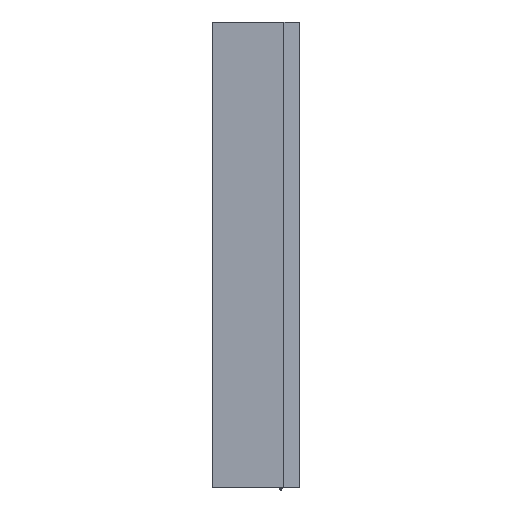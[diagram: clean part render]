
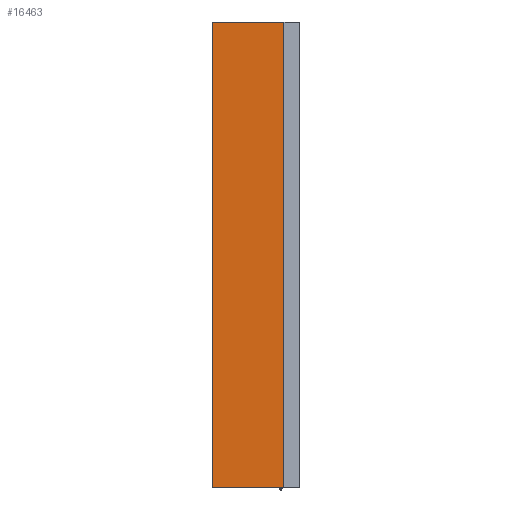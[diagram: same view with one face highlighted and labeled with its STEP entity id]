
A CAD part, left-side view. The second image highlights one B-rep face of the part: STEP entity #16463.
In plain terms, the highlighted planar face has unit normal (-1, 0.018, 0).
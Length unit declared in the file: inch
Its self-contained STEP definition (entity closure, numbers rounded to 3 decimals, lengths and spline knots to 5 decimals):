
#1100 = PLANE ( 'NONE',  #24890 ) ;
#1114 = VECTOR ( 'NONE', #16452, 39.37008 ) ;
#4203 = DIRECTION ( 'NONE',  ( 0., 0., -1. ) ) ;
#6051 = DIRECTION ( 'NONE',  ( -0.017, -1., 0. ) ) ;
#6099 = CARTESIAN_POINT ( 'NONE',  ( -0.575, 0., 0. ) ) ;
#6493 = ORIENTED_EDGE ( 'NONE', *, *, #16540, .T. ) ;
#7720 = EDGE_LOOP ( 'NONE', ( #26476, #6493, #18113, #21102 ) ) ;
#10077 = LINE ( 'NONE', #12664, #17280 ) ;
#10741 = CARTESIAN_POINT ( 'NONE',  ( -0.55899, 0.91709, 0. ) ) ;
#11523 = CARTESIAN_POINT ( 'NONE',  ( -0.57482, 0.01003, 3. ) ) ;
#12118 = CARTESIAN_POINT ( 'NONE',  ( -0.55899, 0.91709, -3. ) ) ;
#12664 = CARTESIAN_POINT ( 'NONE',  ( -0.575, 0., 0. ) ) ;
#13137 = LINE ( 'NONE', #25840, #20535 ) ;
#13434 = VERTEX_POINT ( 'NONE', #18568 ) ;
#14013 = VERTEX_POINT ( 'NONE', #23529 ) ;
#14252 = DIRECTION ( 'NONE',  ( -0.017, -1., 0. ) ) ;
#14342 = EDGE_CURVE ( 'NONE', #14013, #13434, #10077, .T. ) ;
#15662 = VECTOR ( 'NONE', #4203, 39.37008 ) ;
#16307 = LINE ( 'NONE', #11523, #1114 ) ;
#16452 = DIRECTION ( 'NONE',  ( -0.017, -1., 0. ) ) ;
#16463 = ADVANCED_FACE ( 'NONE', ( #19290 ), #1100, .T. ) ;
#16540 = EDGE_CURVE ( 'NONE', #26414, #22352, #26296, .T. ) ;
#17280 = VECTOR ( 'NONE', #18883, 39.37008 ) ;
#18113 = ORIENTED_EDGE ( 'NONE', *, *, #24588, .T. ) ;
#18568 = CARTESIAN_POINT ( 'NONE',  ( -0.575, 0., 3. ) ) ;
#18883 = DIRECTION ( 'NONE',  ( 0., 0., 1. ) ) ;
#19290 = FACE_OUTER_BOUND ( 'NONE', #7720, .T. ) ;
#20535 = VECTOR ( 'NONE', #6051, 39.37008 ) ;
#21102 = ORIENTED_EDGE ( 'NONE', *, *, #14342, .T. ) ;
#22352 = VERTEX_POINT ( 'NONE', #12118 ) ;
#22699 = EDGE_CURVE ( 'NONE', #26414, #13434, #16307, .T. ) ;
#23529 = CARTESIAN_POINT ( 'NONE',  ( -0.575, 0., -3. ) ) ;
#23639 = CARTESIAN_POINT ( 'NONE',  ( -0.55899, 0.91709, 3. ) ) ;
#24588 = EDGE_CURVE ( 'NONE', #22352, #14013, #13137, .T. ) ;
#24890 = AXIS2_PLACEMENT_3D ( 'NONE', #6099, #26037, #14252 ) ;
#25840 = CARTESIAN_POINT ( 'NONE',  ( -0.57482, 0.01003, -3. ) ) ;
#26037 = DIRECTION ( 'NONE',  ( -1., 0.017, 0. ) ) ;
#26296 = LINE ( 'NONE', #10741, #15662 ) ;
#26414 = VERTEX_POINT ( 'NONE', #23639 ) ;
#26476 = ORIENTED_EDGE ( 'NONE', *, *, #22699, .F. ) ;
